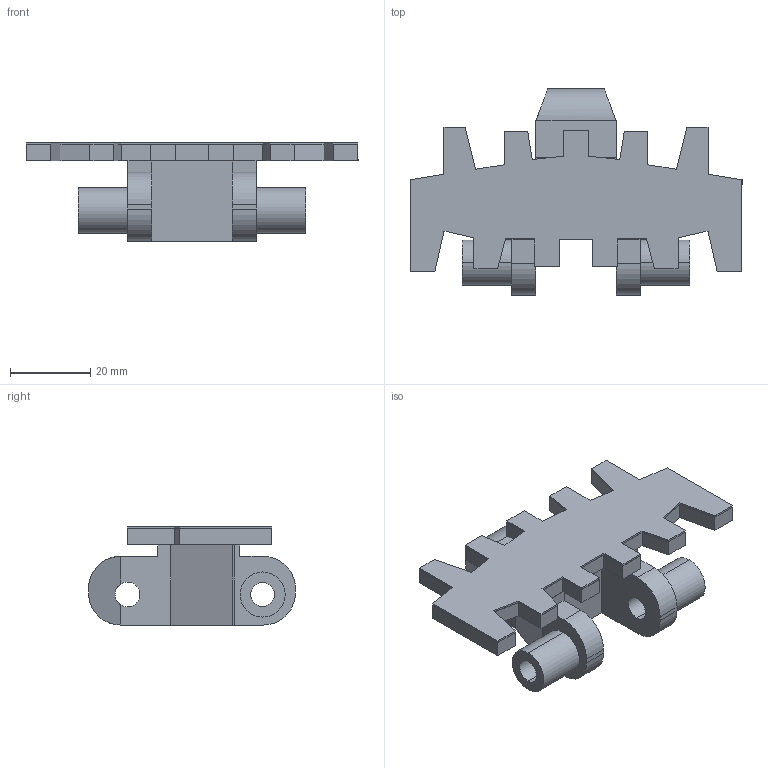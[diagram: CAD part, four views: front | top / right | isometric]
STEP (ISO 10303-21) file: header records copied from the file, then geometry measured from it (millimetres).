
FILE_DESCRIPTION (( 'STEP AP214' ), '1' );
FILE_NAME ('FMFC-5.STEP', '2011-07-06T07:28:08', ( '.' ), ( '' ), 'SwSTEP 2.0', 'SolidWorks 2010', '' );
FILE_SCHEMA (( 'AUTOMOTIVE_DESIGN' ));
Length unit declared in the file: millimetre
Products named in the file (1): FMFC-5
Bounding box: 83 x 51.7 x 24.5 mm (x, y, z)
Volume: 25518 mm3; surface area: 16021.6 mm2
Topology: 2 solids, 2 shells, 140 faces, 396 edges, 260 vertices
Faces by surface type: plane 122, cylinder 18
Entity records: 5019 total; most frequent: CARTESIAN_POINT 815, ORIENTED_EDGE 792, DIRECTION 706, EDGE_CURVE 396, LINE 356, VECTOR 356, VERTEX_POINT 260, AXIS2_PLACEMENT_3D 175
